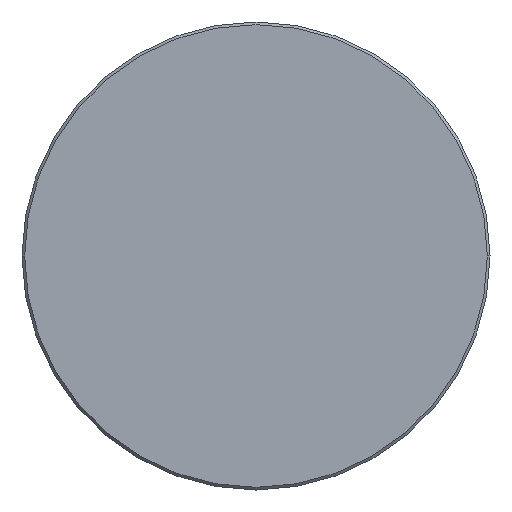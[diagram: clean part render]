
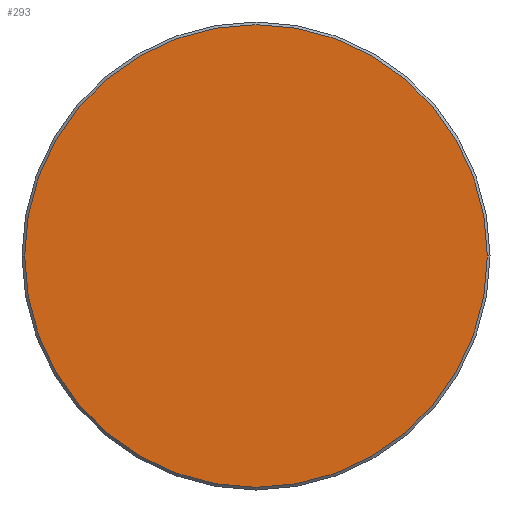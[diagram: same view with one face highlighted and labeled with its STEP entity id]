
A CAD part, left-side view. The second image highlights one B-rep face of the part: STEP entity #293.
In plain terms, the highlighted planar face has unit normal (-1, 0, 0).
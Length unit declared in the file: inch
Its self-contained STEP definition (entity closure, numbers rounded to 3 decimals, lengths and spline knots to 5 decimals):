
#4 = DIRECTION ( 'NONE',  ( 0., -1., 0. ) ) ;
#6 = CARTESIAN_POINT ( 'NONE',  ( 0., 0., 0. ) ) ;
#48 = AXIS2_PLACEMENT_3D ( 'NONE', #267, #325, #356 ) ;
#78 = CARTESIAN_POINT ( 'NONE',  ( 0., 0., 0. ) ) ;
#86 = CARTESIAN_POINT ( 'NONE',  ( 0., 0.34756, 0. ) ) ;
#143 = PLANE ( 'NONE',  #291 ) ;
#174 = DIRECTION ( 'NONE',  ( 0., -1., 0. ) ) ;
#188 = FACE_OUTER_BOUND ( 'NONE', #337, .T. ) ;
#192 = AXIS2_PLACEMENT_3D ( 'NONE', #6, #235, #4 ) ;
#217 = ORIENTED_EDGE ( 'NONE', *, *, #331, .T. ) ;
#224 = DIRECTION ( 'NONE',  ( -1., 0., 0. ) ) ;
#235 = DIRECTION ( 'NONE',  ( -1., 0., 0. ) ) ;
#238 = VERTEX_POINT ( 'NONE', #348 ) ;
#241 = CIRCLE ( 'NONE', #192, 0.34756 ) ;
#267 = CARTESIAN_POINT ( 'NONE',  ( 0., 0., 0. ) ) ;
#273 = ORIENTED_EDGE ( 'NONE', *, *, #364, .T. ) ;
#291 = AXIS2_PLACEMENT_3D ( 'NONE', #78, #224, #174 ) ;
#293 = ADVANCED_FACE ( 'NONE', ( #188 ), #143, .T. ) ;
#310 = VERTEX_POINT ( 'NONE', #86 ) ;
#325 = DIRECTION ( 'NONE',  ( -1., 0., 0. ) ) ;
#331 = EDGE_CURVE ( 'NONE', #310, #238, #332, .T. ) ;
#332 = CIRCLE ( 'NONE', #48, 0.34756 ) ;
#337 = EDGE_LOOP ( 'NONE', ( #217, #273 ) ) ;
#348 = CARTESIAN_POINT ( 'NONE',  ( 0., -0.34756, 0. ) ) ;
#356 = DIRECTION ( 'NONE',  ( 0., -1., 0. ) ) ;
#364 = EDGE_CURVE ( 'NONE', #238, #310, #241, .T. ) ;
